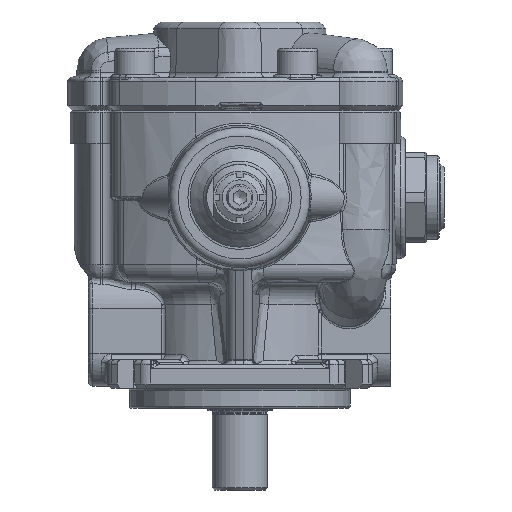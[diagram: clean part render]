
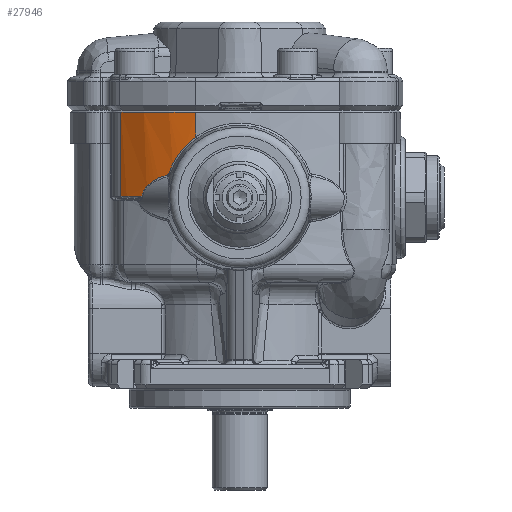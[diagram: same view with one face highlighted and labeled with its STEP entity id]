
A CAD part, front view. The second image highlights one B-rep face of the part: STEP entity #27946.
In plain terms, the highlighted cylindrical face has radius 79.124 mm (diameter 158.248 mm), a partial arc.
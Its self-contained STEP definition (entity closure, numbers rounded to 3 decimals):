
#2298=FACE_OUTER_BOUND('',#3972,.T.);
#3972=EDGE_LOOP('',(#20736,#20737,#20738,#20739,#20740,#20741,#20742,#20743));
#5342=B_SPLINE_CURVE_WITH_KNOTS('',3,(#49044,#49045,#49046,#49047,#49048),
 .UNSPECIFIED.,.F.,.F.,(4,1,4),(0.,0.047,0.094),
 .UNSPECIFIED.);
#5343=B_SPLINE_CURVE_WITH_KNOTS('',3,(#49050,#49051,#49052,#49053),
 .UNSPECIFIED.,.F.,.F.,(4,4),(0.,2.133),
 .UNSPECIFIED.);
#5344=B_SPLINE_CURVE_WITH_KNOTS('',3,(#49064,#49065,#49066,#49067,#49068,
#49069,#49070),.UNSPECIFIED.,.F.,.F.,(4,1,1,1,4),(10.463,11.2,
11.691,11.936,12.182),.UNSPECIFIED.);
#6575=CIRCLE('',#30325,79.124);
#6576=CIRCLE('',#30326,79.124);
#6577=CIRCLE('',#30327,79.124);
#8084=LINE('',#49055,#9466);
#8085=LINE('',#49059,#9467);
#9466=VECTOR('',#35531,10.);
#9467=VECTOR('',#35534,10.);
#11486=VERTEX_POINT('',#49042);
#11487=VERTEX_POINT('',#49043);
#11488=VERTEX_POINT('',#49049);
#11489=VERTEX_POINT('',#49054);
#11490=VERTEX_POINT('',#49056);
#11491=VERTEX_POINT('',#49058);
#11492=VERTEX_POINT('',#49060);
#11493=VERTEX_POINT('',#49062);
#14795=EDGE_CURVE('',#11486,#11487,#5342,.T.);
#14796=EDGE_CURVE('',#11488,#11486,#5343,.T.);
#14797=EDGE_CURVE('',#11489,#11488,#8084,.T.);
#14798=EDGE_CURVE('',#11490,#11489,#6575,.T.);
#14799=EDGE_CURVE('',#11490,#11491,#8085,.T.);
#14800=EDGE_CURVE('',#11492,#11491,#6576,.T.);
#14801=EDGE_CURVE('',#11493,#11492,#6577,.T.);
#14802=EDGE_CURVE('',#11487,#11493,#5344,.T.);
#20736=ORIENTED_EDGE('',*,*,#14795,.F.);
#20737=ORIENTED_EDGE('',*,*,#14796,.F.);
#20738=ORIENTED_EDGE('',*,*,#14797,.F.);
#20739=ORIENTED_EDGE('',*,*,#14798,.F.);
#20740=ORIENTED_EDGE('',*,*,#14799,.T.);
#20741=ORIENTED_EDGE('',*,*,#14800,.F.);
#20742=ORIENTED_EDGE('',*,*,#14801,.F.);
#20743=ORIENTED_EDGE('',*,*,#14802,.F.);
#25347=CYLINDRICAL_SURFACE('',#30324,79.124);
#27946=ADVANCED_FACE('',(#2298),#25347,.T.);
#30324=AXIS2_PLACEMENT_3D('',#49041,#35529,#35530);
#30325=AXIS2_PLACEMENT_3D('',#49057,#35532,#35533);
#30326=AXIS2_PLACEMENT_3D('',#49061,#35535,#35536);
#30327=AXIS2_PLACEMENT_3D('',#49063,#35537,#35538);
#35529=DIRECTION('center_axis',(0.,0.,-1.));
#35530=DIRECTION('ref_axis',(0.65,0.76,0.));
#35531=DIRECTION('',(0.,0.,-1.));
#35532=DIRECTION('center_axis',(0.,0.,1.));
#35533=DIRECTION('ref_axis',(-0.65,-0.76,0.));
#35534=DIRECTION('',(0.,0.,-1.));
#35535=DIRECTION('center_axis',(0.,0.,-1.));
#35536=DIRECTION('ref_axis',(-0.592,-0.806,0.));
#35537=DIRECTION('center_axis',(0.,0.,-1.));
#35538=DIRECTION('ref_axis',(-0.53,-0.848,0.));
#49041=CARTESIAN_POINT('Origin',(126.2,3.241,91.783));
#49042=CARTESIAN_POINT('',(96.357,-70.039,63.134));
#49043=CARTESIAN_POINT('',(95.726,-69.779,62.547));
#49044=CARTESIAN_POINT('Ctrl Pts',(96.357,-70.039,63.134));
#49045=CARTESIAN_POINT('Ctrl Pts',(96.306,-70.018,62.986));
#49046=CARTESIAN_POINT('Ctrl Pts',(96.132,-69.947,62.722));
#49047=CARTESIAN_POINT('Ctrl Pts',(95.866,-69.837,62.583));
#49048=CARTESIAN_POINT('Ctrl Pts',(95.726,-69.779,62.547));
#49049=CARTESIAN_POINT('',(108.594,-73.899,79.631));
#49050=CARTESIAN_POINT('Ctrl Pts',(108.594,-73.899,79.631));
#49051=CARTESIAN_POINT('Ctrl Pts',(102.973,-72.616,75.574));
#49052=CARTESIAN_POINT('Ctrl Pts',(98.634,-70.966,69.794));
#49053=CARTESIAN_POINT('Ctrl Pts',(96.357,-70.039,63.134));
#49054=CARTESIAN_POINT('',(108.594,-73.899,90.883));
#49055=CARTESIAN_POINT('',(108.594,-73.899,91.783));
#49056=CARTESIAN_POINT('',(74.743,-56.865,90.883));
#49057=CARTESIAN_POINT('Origin',(126.2,3.241,90.883));
#49058=CARTESIAN_POINT('',(74.743,-56.865,52.783));
#49059=CARTESIAN_POINT('',(74.743,-56.865,91.783));
#49060=CARTESIAN_POINT('',(82.883,-62.972,52.783));
#49061=CARTESIAN_POINT('Origin',(126.2,3.241,52.783));
#49062=CARTESIAN_POINT('',(84.3,-63.878,52.783));
#49063=CARTESIAN_POINT('Origin',(126.2,3.241,52.783));
#49064=CARTESIAN_POINT('Ctrl Pts',(95.726,-69.779,62.547));
#49065=CARTESIAN_POINT('Ctrl Pts',(93.547,-68.87,61.988));
#49066=CARTESIAN_POINT('Ctrl Pts',(90.088,-67.231,60.573));
#49067=CARTESIAN_POINT('Ctrl Pts',(86.574,-65.262,57.755));
#49068=CARTESIAN_POINT('Ctrl Pts',(84.829,-64.209,55.173));
#49069=CARTESIAN_POINT('Ctrl Pts',(84.366,-63.919,53.597));
#49070=CARTESIAN_POINT('Ctrl Pts',(84.3,-63.878,52.783));
